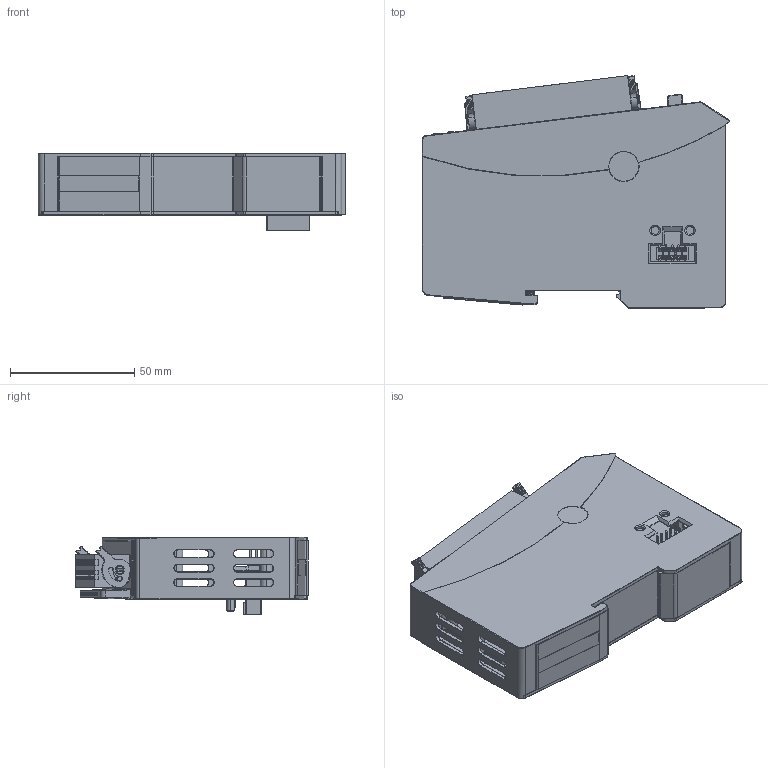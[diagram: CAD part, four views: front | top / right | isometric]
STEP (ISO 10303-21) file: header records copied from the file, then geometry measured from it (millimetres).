
FILE_DESCRIPTION(('CATIA V5 STEP Exchange'),'2;1');
FILE_NAME('Z:\DE\Automation\Data\Exchange\Dreiack\Berghof_694\3D-Daten\IO_18.stp','2012-03-06T10:49:19+00:00',('none'),('none'),'CATIA Version 5 Release 19 SP 9 (IN-10)','CATIA V5 STEP AP214','none');
FILE_SCHEMA(('AUTOMOTIVE_DESIGN { 1 0 10303 214 1 1 1 1 }'));
Products named in the file (1): Part82
Bounding box: 123.57 x 93.57 x 31.35 mm (x, y, z)
Volume: 84649.9 mm3; surface area: 103598.7 mm2
Topology: 1 solids, 11 shells, 6497 faces, 17979 edges, 11415 vertices
Faces by surface type: plane 4171, cylinder 1732, torus 341, cone 126, sphere 88, bspline 35, revolution 4
Entity records: 201166 total; most frequent: CARTESIAN_POINT 46415, ORIENTED_EDGE 35766, DIRECTION 25542, EDGE_CURVE 17883, VECTOR 12927, LINE 12927, VERTEX_POINT 11415, AXIS2_PLACEMENT_3D 8071
